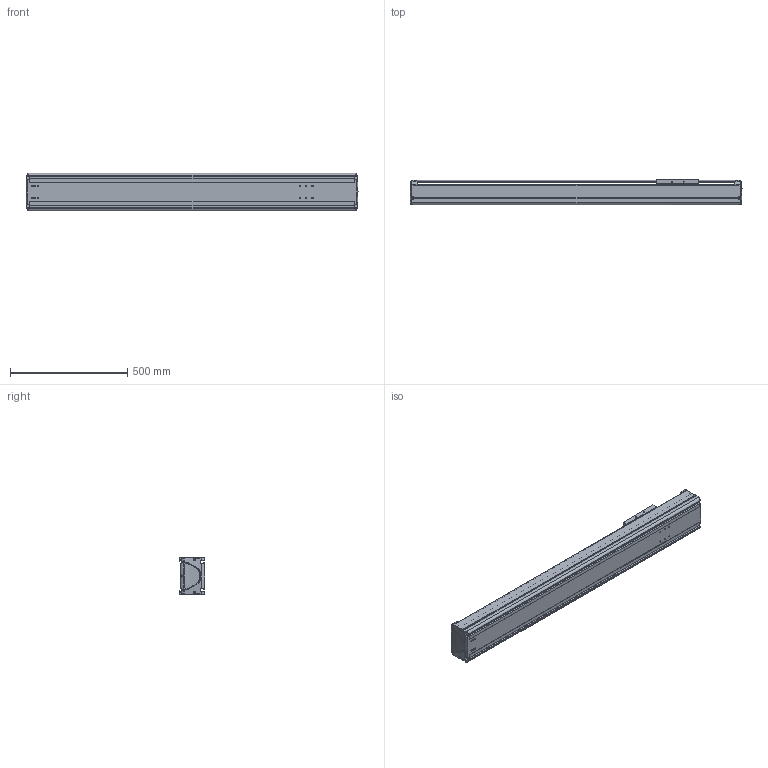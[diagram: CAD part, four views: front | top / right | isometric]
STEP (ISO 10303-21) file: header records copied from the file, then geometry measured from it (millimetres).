
FILE_DESCRIPTION((''),'2;1');
FILE_NAME('BE50G-ST-M_B-A0_IGS_PRT','2017-06-18T',(' '),(''),'PRO/ENGINEER BY PARAMETRIC TECHNOLOGY CORPORATION, 2015030','PRO/ENGINEER BY PARAMETRIC TECHNOLOGY CORPORATION, 2015030','');
FILE_SCHEMA(('CONFIG_CONTROL_DESIGN'));
Length unit declared in the file: millimetre
Products named in the file (1): BE50G-ST-M_B-A0_IGS_PRT
Bounding box: 1414.98 x 110 x 160 mm (x, y, z)
Volume: 6258759.4 mm3; surface area: 2139720.5 mm2
Topology: 2 solids, 87 shells, 1644 faces, 4358 edges, 2795 vertices
Faces by surface type: cylinder 718, plane 625, bspline 102, torus 87, cone 72, sphere 40
Entity records: 56588 total; most frequent: CARTESIAN_POINT 16249, ORIENTED_EDGE 8324, DIRECTION 8240, EDGE_CURVE 4332, AXIS2_PLACEMENT_3D 3074, VERTEX_POINT 2787, VECTOR 2092, LINE 2092
